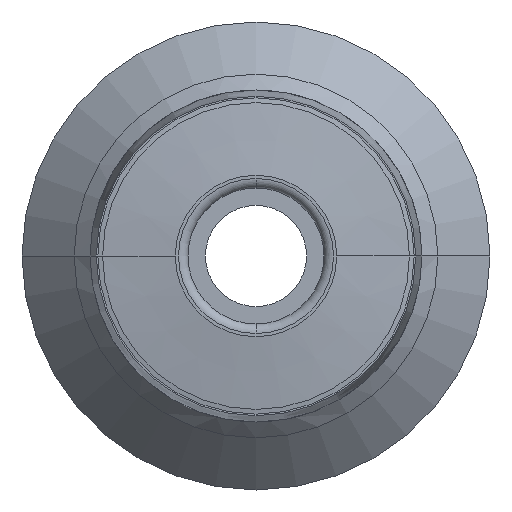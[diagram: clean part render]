
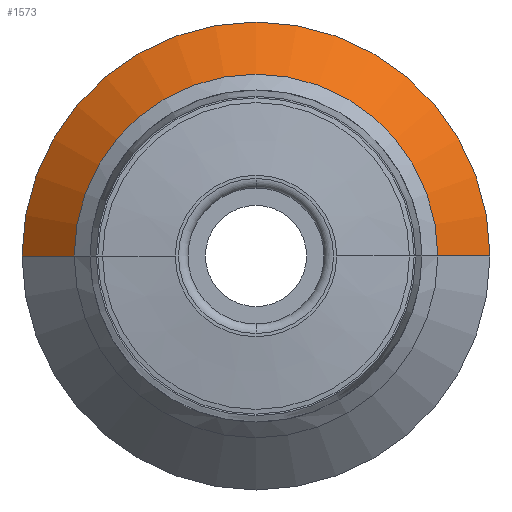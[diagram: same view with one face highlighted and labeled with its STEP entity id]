
A CAD part, front view. The second image highlights one B-rep face of the part: STEP entity #1573.
In plain terms, the highlighted conical face has half-angle 45 degrees and reference radius 6.575 mm.
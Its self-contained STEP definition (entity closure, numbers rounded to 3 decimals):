
#19 = ORIENTED_EDGE ( 'NONE', *, *, #683, .T. ) ;
#48 = CARTESIAN_POINT ( 'NONE',  ( 6.575, 22.025, 0. ) ) ;
#134 = DIRECTION ( 'NONE',  ( 0., 1., 0. ) ) ;
#199 = VERTEX_POINT ( 'NONE', #1537 ) ;
#210 = DIRECTION ( 'NONE',  ( 0., 1., 0. ) ) ;
#237 = LINE ( 'NONE', #676, #1043 ) ;
#263 = AXIS2_PLACEMENT_3D ( 'NONE', #1771, #210, #1791 ) ;
#269 = VERTEX_POINT ( 'NONE', #769 ) ;
#279 = ORIENTED_EDGE ( 'NONE', *, *, #845, .T. ) ;
#315 = AXIS2_PLACEMENT_3D ( 'NONE', #963, #989, #979 ) ;
#332 = FACE_OUTER_BOUND ( 'NONE', #600, .T. ) ;
#383 = EDGE_CURVE ( 'NONE', #1845, #199, #1431, .T. ) ;
#490 = EDGE_CURVE ( 'NONE', #269, #1845, #237, .T. ) ;
#527 = CARTESIAN_POINT ( 'NONE',  ( 0., 21.2, 0. ) ) ;
#600 = EDGE_LOOP ( 'NONE', ( #279, #19, #862, #1780 ) ) ;
#614 = DIRECTION ( 'NONE',  ( 0.707, 0.707, 0. ) ) ;
#676 = CARTESIAN_POINT ( 'NONE',  ( -6.575, 22.025, 0. ) ) ;
#683 = EDGE_CURVE ( 'NONE', #1443, #199, #748, .T. ) ;
#748 = LINE ( 'NONE', #48, #1441 ) ;
#750 = CARTESIAN_POINT ( 'NONE',  ( -7.4, 22.85, 0. ) ) ;
#769 = CARTESIAN_POINT ( 'NONE',  ( -5.75, 21.2, 0. ) ) ;
#845 = EDGE_CURVE ( 'NONE', #269, #1443, #1167, .T. ) ;
#862 = ORIENTED_EDGE ( 'NONE', *, *, #383, .F. ) ;
#911 = CONICAL_SURFACE ( 'NONE', #263, 6.575, 0.785 ) ;
#953 = DIRECTION ( 'NONE',  ( -0.707, 0.707, 0. ) ) ;
#963 = CARTESIAN_POINT ( 'NONE',  ( 0., 22.85, 0. ) ) ;
#979 = DIRECTION ( 'NONE',  ( -1., 0., 0. ) ) ;
#989 = DIRECTION ( 'NONE',  ( 0., 1., 0. ) ) ;
#1043 = VECTOR ( 'NONE', #953, 1000. ) ;
#1127 = DIRECTION ( 'NONE',  ( -1., 0., 0. ) ) ;
#1167 = CIRCLE ( 'NONE', #1619, 5.75 ) ;
#1403 = CARTESIAN_POINT ( 'NONE',  ( 5.75, 21.2, 0. ) ) ;
#1431 = CIRCLE ( 'NONE', #315, 7.4 ) ;
#1441 = VECTOR ( 'NONE', #614, 1000. ) ;
#1443 = VERTEX_POINT ( 'NONE', #1403 ) ;
#1537 = CARTESIAN_POINT ( 'NONE',  ( 7.4, 22.85, 0. ) ) ;
#1573 = ADVANCED_FACE ( 'NONE', ( #332 ), #911, .T. ) ;
#1619 = AXIS2_PLACEMENT_3D ( 'NONE', #527, #134, #1127 ) ;
#1771 = CARTESIAN_POINT ( 'NONE',  ( 0., 22.025, 0. ) ) ;
#1780 = ORIENTED_EDGE ( 'NONE', *, *, #490, .F. ) ;
#1791 = DIRECTION ( 'NONE',  ( -1., 0., 0. ) ) ;
#1845 = VERTEX_POINT ( 'NONE', #750 ) ;
